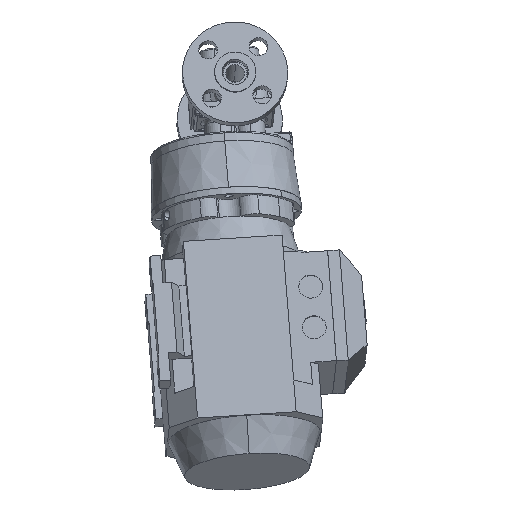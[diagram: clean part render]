
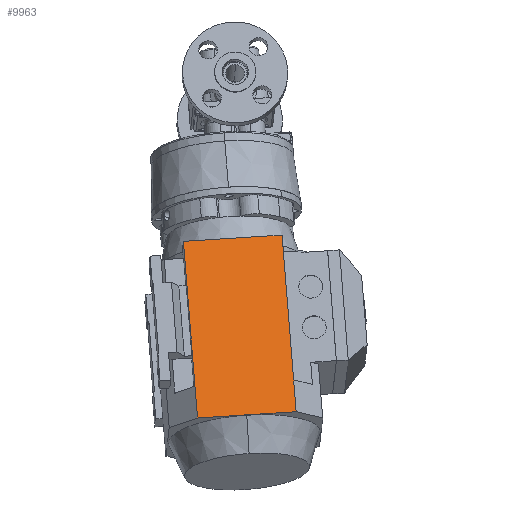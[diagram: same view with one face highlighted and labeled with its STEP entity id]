
A CAD part, front view. The second image highlights one B-rep face of the part: STEP entity #9963.
In plain terms, the highlighted planar face has unit normal (0.032, -0.957, 0.287).
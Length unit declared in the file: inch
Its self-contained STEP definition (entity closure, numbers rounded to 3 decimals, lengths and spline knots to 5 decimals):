
#1236 = EDGE_CURVE ( 'NONE', #2596, #2347, #27136, .T. ) ;
#2118 = PLANE ( 'NONE',  #3030 ) ;
#2347 = VERTEX_POINT ( 'NONE', #24662 ) ;
#2596 = VERTEX_POINT ( 'NONE', #14057 ) ;
#3030 = AXIS2_PLACEMENT_3D ( 'NONE', #14459, #21196, #3801 ) ;
#3735 = EDGE_CURVE ( 'NONE', #6343, #8539, #7023, .T. ) ;
#3801 = DIRECTION ( 'NONE',  ( 0.076, -0.284, -0.956 ) ) ;
#4180 = VERTEX_POINT ( 'NONE', #23674 ) ;
#4787 = VECTOR ( 'NONE', #15303, 39.37008 ) ;
#5184 = EDGE_CURVE ( 'NONE', #26634, #2347, #23820, .T. ) ;
#5939 = ORIENTED_EDGE ( 'NONE', *, *, #3735, .T. ) ;
#6099 = DIRECTION ( 'NONE',  ( -0.076, 0.284, 0.956 ) ) ;
#6343 = VERTEX_POINT ( 'NONE', #23317 ) ;
#7023 = LINE ( 'NONE', #9004, #4787 ) ;
#7915 = CARTESIAN_POINT ( 'NONE',  ( 0.79415, -1.14514, -1.55549 ) ) ;
#8539 = VERTEX_POINT ( 'NONE', #17852 ) ;
#8739 = DIRECTION ( 'NONE',  ( -0.076, 0.284, 0.956 ) ) ;
#9004 = CARTESIAN_POINT ( 'NONE',  ( 1.26245, -2.89183, -7.42496 ) ) ;
#9546 = EDGE_CURVE ( 'NONE', #8539, #2596, #25313, .T. ) ;
#9963 = ADVANCED_FACE ( 'NONE', ( #14742 ), #2118, .T. ) ;
#10752 = EDGE_CURVE ( 'NONE', #4180, #26634, #16883, .T. ) ;
#11160 = VECTOR ( 'NONE', #21458, 39.37008 ) ;
#12075 = ORIENTED_EDGE ( 'NONE', *, *, #10752, .F. ) ;
#14057 = CARTESIAN_POINT ( 'NONE',  ( 0.79415, -1.14514, -1.55549 ) ) ;
#14459 = CARTESIAN_POINT ( 'NONE',  ( 1.26245, -2.89183, -7.42496 ) ) ;
#14742 = FACE_OUTER_BOUND ( 'NONE', #22037, .T. ) ;
#14784 = CARTESIAN_POINT ( 'NONE',  ( -2.01547, -3.06569, -7.63475 ) ) ;
#15303 = DIRECTION ( 'NONE',  ( -0.076, 0.284, 0.956 ) ) ;
#15917 = ORIENTED_EDGE ( 'NONE', *, *, #22827, .T. ) ;
#16363 = CARTESIAN_POINT ( 'NONE',  ( 1.17839, -2.57832, -6.37146 ) ) ;
#16488 = DIRECTION ( 'NONE',  ( -0.997, -0.053, -0.064 ) ) ;
#16876 = VECTOR ( 'NONE', #6099, 39.37008 ) ;
#16883 = LINE ( 'NONE', #14784, #19618 ) ;
#17199 = ORIENTED_EDGE ( 'NONE', *, *, #5184, .F. ) ;
#17852 = CARTESIAN_POINT ( 'NONE',  ( 1.17839, -2.57832, -6.37146 ) ) ;
#18415 = VECTOR ( 'NONE', #18882, 39.37008 ) ;
#18882 = DIRECTION ( 'NONE',  ( 0.997, 0.053, 0.064 ) ) ;
#19008 = LINE ( 'NONE', #23213, #18415 ) ;
#19470 = CARTESIAN_POINT ( 'NONE',  ( -2.09952, -2.75218, -6.58125 ) ) ;
#19618 = VECTOR ( 'NONE', #8739, 39.37008 ) ;
#21196 = DIRECTION ( 'NONE',  ( 0.032, -0.957, 0.287 ) ) ;
#21413 = VECTOR ( 'NONE', #16488, 39.37008 ) ;
#21458 = DIRECTION ( 'NONE',  ( -0.076, 0.284, 0.956 ) ) ;
#22037 = EDGE_LOOP ( 'NONE', ( #17199, #12075, #15917, #5939, #27358, #25349 ) ) ;
#22827 = EDGE_CURVE ( 'NONE', #4180, #6343, #19008, .T. ) ;
#23213 = CARTESIAN_POINT ( 'NONE',  ( -2.01547, -3.06569, -7.63475 ) ) ;
#23317 = CARTESIAN_POINT ( 'NONE',  ( 1.26245, -2.89183, -7.42496 ) ) ;
#23674 = CARTESIAN_POINT ( 'NONE',  ( -2.01547, -3.06569, -7.63475 ) ) ;
#23820 = LINE ( 'NONE', #19470, #11160 ) ;
#24662 = CARTESIAN_POINT ( 'NONE',  ( -2.48377, -1.319, -1.76528 ) ) ;
#25313 = LINE ( 'NONE', #16363, #16876 ) ;
#25349 = ORIENTED_EDGE ( 'NONE', *, *, #1236, .T. ) ;
#26031 = CARTESIAN_POINT ( 'NONE',  ( -2.09952, -2.75218, -6.58125 ) ) ;
#26634 = VERTEX_POINT ( 'NONE', #26031 ) ;
#27136 = LINE ( 'NONE', #7915, #21413 ) ;
#27358 = ORIENTED_EDGE ( 'NONE', *, *, #9546, .T. ) ;
